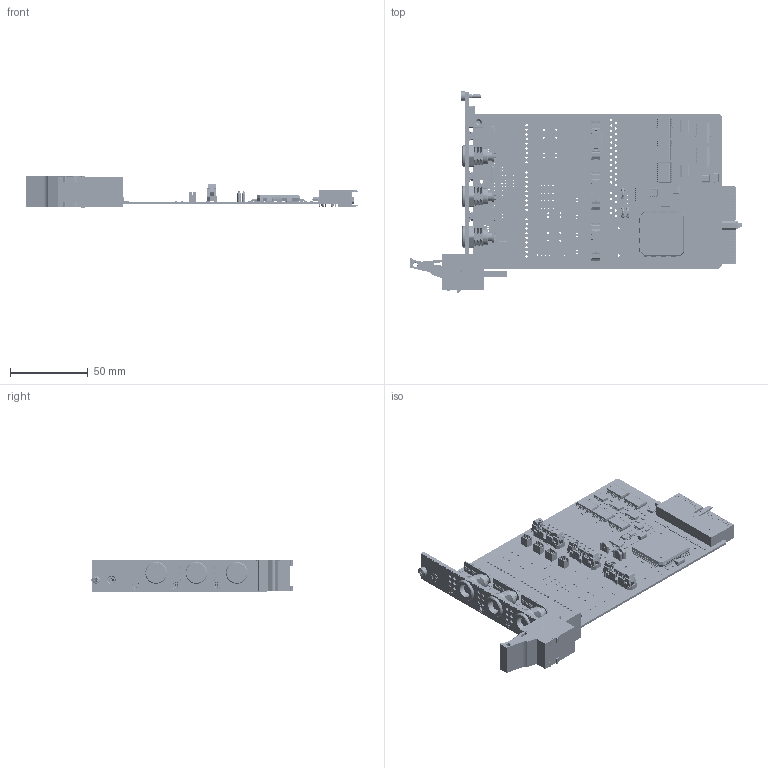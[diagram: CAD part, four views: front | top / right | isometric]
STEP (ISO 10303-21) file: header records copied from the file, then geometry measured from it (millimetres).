
FILE_DESCRIPTION (( 'STEP AP214' ), '1' );
FILE_NAME ('40-785B-523-E (PART 1 OF 2).STEP', '2016-06-06T14:59:10', ( 'admin' ), ( 'Hewlett-Packard Company' ), 'SwSTEP 2.0', 'SolidWorks 2015', '' );
FILE_SCHEMA (( 'AUTOMOTIVE_DESIGN' ));
Length unit declared in the file: millimetre
Products named in the file (51): C-CN-1318 ODU MINI-SNAP L-SERIES P10 PCB; C-CP-104 CAP 22000uF 3 Terminal CAP; P-FX-017 M2,5 Collar Posi-Slot Screw; C-CP-160 Cap 10uF 16V Tant Smt (C.CASE); C-FX-165 Handle Pin; C-CN-1318 ODU MINI-SNAP L-SERIES P10 PCB SOCKET; C-CN-861 1 x 2 Way Header B2B-PH-K-S; C-FX-165 Handle Finger; C-CN-887 2 X8 WAY HEADER MALE STRAIGHT; C-FX-165 Handle Body; C-CN-1318 ODU MINI-SNAP L-SERIES P10 PCB NUT; Resistor 1206 x4 network Default; C-FX-025 Pcb Mounting Bracket; C-IC-124 16-Bit Constant Current Sink Driver; A-FP-874 PXI 1 SLT 3x8way Mini Snap FP+Label Assy; C-CN-1132 2x8 Through Samtec Header; L-FP-874 PXI 1 SLT FP Label Assy; C-CN-1132-PIN; C-CN-355 Compact pci connector 3; L-FP-874-# PXI 1 SLT 3x8 Way Minisnap FP Label; C-CN-1132-Base; C-IC-219 PLX PCI9052; pcb1059r0; C-PC-716 RIM Interface PCB; C-FP-874 PXI 3U 1 SLOT 3 x SNAP OUD; C-FX-028 Hex Nut M2.5 _C-FX-028 M2,5 Nut; C-BP-015 PXI 3U x 1 Slot Blank Panel; 40-785B-523-E (PART 1 OF 2); A-PC-1055 LED PCB Microwave Realy; C-FX-101 M2.5x6mm Pan Head Cross Recess Screw_ISO_ISO 7045 - M2.5 x 6 - Z --- 6N; C-FX-034 M2.5 Nylon Washer; A-PC-1055-# LED PCB Microwave Realy; A-PC-716 RIM Interface 40-780-524; A-FP-874-L1 PXI 1 SLT 3x8 way mini snap FP Full Assembly; C-SC-147 BLUE LED 0603; C-IC-100 IC 74HCT273 SMD_Without Pckage Description; C-FX-396 M2.5 x 4mm Countersink screw_M 2.5x4mm - C-FX-396; C-RS-152 Res 10K 0603 1-16W 1% 300PPM; C-CP-034; C-FX-042 Screw M2.5x6 CSK Pozi_M 2.5x06 - C-FX-042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
Assembly tree (182 placements, depth 5):
  40-785B-523-E (PART 1 OF 2)
    A-PC-716 RIM Interface 40-780-524
      C-PC-716 RIM Interface PCB
      C-IC-219 PLX PCI9052
      C-CN-355 Compact pci connector 3
      C-IC-124 16-Bit Constant Current Sink Driver  x3
      Resistor 1206 x4 network Default  x21
      C-CN-887 2 X8 WAY HEADER MALE STRAIGHT  x3
      C-CN-861 1 x 2 Way Header B2B-PH-K-S  x4
      C-CP-160 Cap 10uF 16V Tant Smt (C.CASE)  x5
      C-CP-104 CAP 22000uF 3 Terminal CAP  x3
      C-IC-090 IC M 93C56_No Text  x4
      C-IC-087 IC 74HCT32D Logic IC Smt_No Text
      C-SC-035 Transistor SMT
      C-CP-034  x55
      C-IC-100 IC 74HCT273 SMD_Without Pckage Description  x5
    C-FX-101 M2.5x6mm Pan Head Cross Recess Screw_ISO_ISO 7045 - M2.5 x 6 - Z --- 6N  x2
    A-FP-874-L1 PXI 1 SLT 3x8 way mini snap FP Full Assembly
      A-FP-874 PXI 1 SLT 3x8way Mini Snap FP+Label Assy
        C-FP-874 PXI 3U 1 SLOT 3 x SNAP OUD
          C-BP-015 PXI 3U x 1 Slot Blank Panel
        L-FP-874 PXI 1 SLT FP Label Assy
          L-FP-874-# PXI 1 SLT 3x8 Way Minisnap FP Label
      C-FX-025 Pcb Mounting Bracket
      C-FX-165 CPCI Ejector Handle
        C-FX-165 Handle Body
        C-FX-165 Handle Finger
        C-FX-165 Handle Pin
        P-FX-017 M2,5 Collar Posi-Slot Screw
        L-FX-165 PXI Handle Label
      Z-FX-2001 FP Fixing - Bush + Screw
        C-BK-026 Bush Front Panel Mounting
        P-FX-017 M2,5 Collar Posi-Slot Screw
      C-FX-042 Screw M2.5x6 CSK Pozi_M 2.5x06 - C-FX-042
      C-FX-101 M2.5x6mm Pan Head Cross Recess Screw_ISO_ISO 7045 - M2.5 x 6 - Z --- 6N
      C-FX-396 M2.5 x 4mm Countersink screw_M 2.5x4mm - C-FX-396  x3
    C-FX-034 M2.5 Nylon Washer  x3
    C-FX-028 Hex Nut M2.5 _C-FX-028 M2,5 Nut  x3
    A-PC-1059 Microwave Ribbon PCB Assy  x3
      A-PC-1059-# Microwave Ribbon PCB Assy
        pcb1059r0
        C-CN-1132 2x8 Through Samtec Header
          C-CN-1132-Base
          C-CN-1132-PIN  x16
        C-CN-1318 ODU MINI-SNAP L-SERIES P10 PCB
          C-CN-1318 ODU MINI-SNAP L-SERIES P10 PCB NUT
          C-CN-1318 ODU MINI-SNAP L-SERIES P10 PCB SOCKET
    A-PC-1055 LED PCB Microwave Realy  x3
      A-PC-1055-# LED PCB Microwave Realy
        pcb1055r0
        C-CN-971 2X8WAY FEMALE SMT HEADER 2MM_ALIGNMENTALEAD STYLE1PINS8PLATINGFROWDV
        C-RS-152 Res 10K 0603 1-16W 1% 300PPM  x6
        C-SC-147 BLUE LED 0603  x6
Bounding box: 214.01 x 129.67 x 20 mm (x, y, z)
Volume: 72104.3 mm3; surface area: 87552.7 mm2
Topology: 532 solids, 565 shells, 18575 faces, 47328 edges, 30315 vertices
Faces by surface type: plane 13918, cylinder 3502, cone 697, bspline 342, torus 85, sphere 31
Entity records: 339423 total; most frequent: CARTESIAN_POINT 58231, ORIENTED_EDGE 43066, DIRECTION 41789, EDGE_CURVE 21537, LINE 16875, VECTOR 16875, VERTEX_POINT 13881, AXIS2_PLACEMENT_3D 12457
